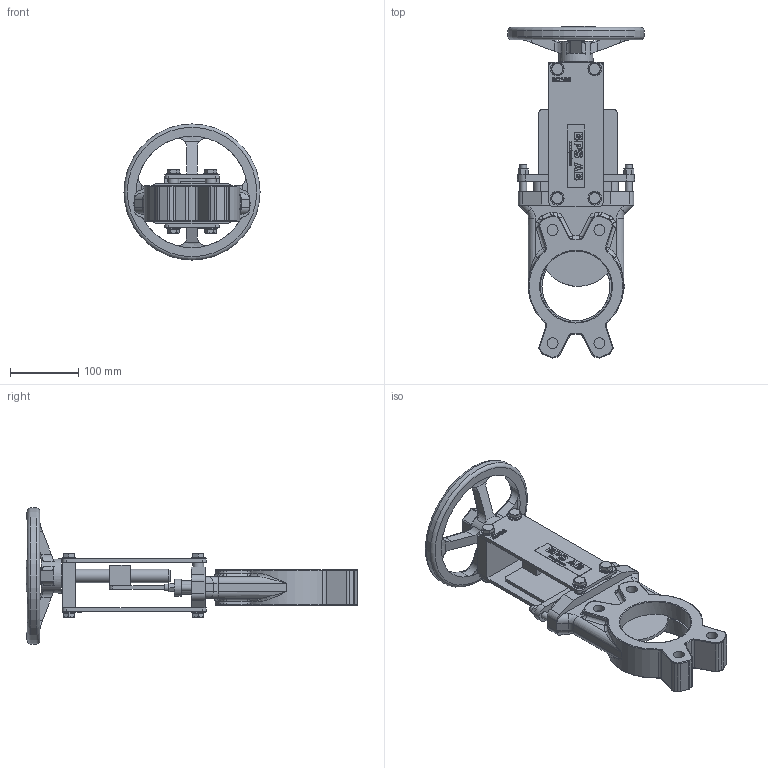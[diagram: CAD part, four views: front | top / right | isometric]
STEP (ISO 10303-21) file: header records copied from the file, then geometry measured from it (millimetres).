
FILE_DESCRIPTION((''),'2;1');
FILE_NAME('Z:\Kunder\BPS\BPS Produkter\BPS 2015\DN 100\Ritningar\BPS 2015100.stp','2012-12-28T10:56:16',('James'),(''),'Autodesk Inventor 2013','Autodesk Inventor 2013','');
FILE_SCHEMA(('AUTOMOTIVE_DESIGN { 1 2 10303 214 0 1 1 1 }'));
Length unit declared in the file: millimetre
Products named in the file (2): BPS 2015100 (SubstituteLevelofDetail1); BPS 2015100
Assembly tree (1 placements, depth 2):
  BPS 2015100 (SubstituteLevelofDetail1)
    BPS 2015100
Bounding box: 200 x 487.77 x 200 mm (x, y, z)
Volume: 1866662.8 mm3; surface area: 321270.9 mm2
Topology: 2 solids, 16 shells, 1192 faces, 2857 edges, 1792 vertices
Faces by surface type: plane 558, bspline 237, cylinder 235, torus 87, cone 55, sphere 20
Full cylindrical faces by diameter (mm): 8 x2, 10 x16, 10.5 x8, 14.63 x8, 16 x10, 20 x11, 50 x1, 100 x1, 105 x1, 164 x1, 200 x1
Entity records: 42424 total; most frequent: CARTESIAN_POINT 15189, ORIENTED_EDGE 5522, DIRECTION 4843, EDGE_CURVE 2761, VERTEX_POINT 1778, AXIS2_PLACEMENT_3D 1670, VECTOR 1503, LINE 1503
